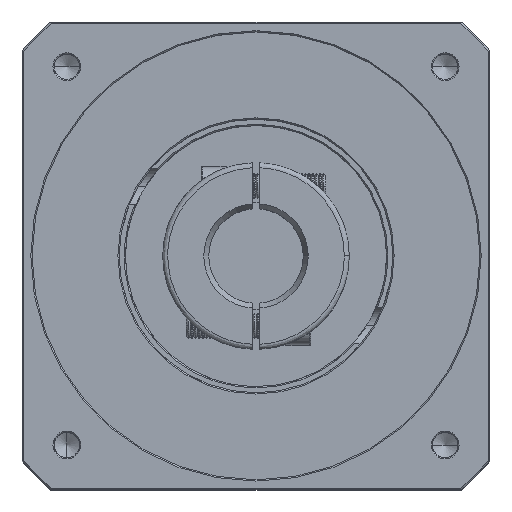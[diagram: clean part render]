
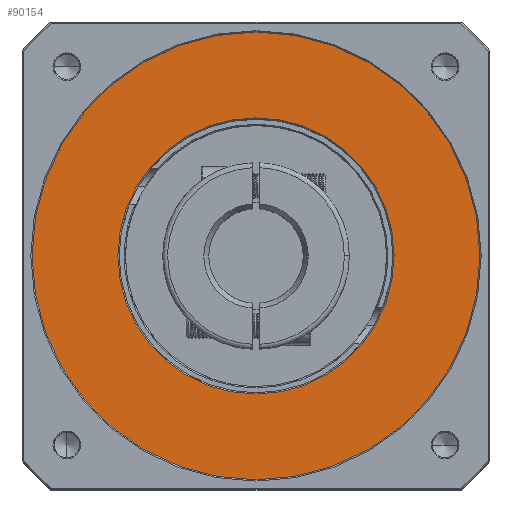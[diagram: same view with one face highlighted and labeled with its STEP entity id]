
A CAD part, top view. The second image highlights one B-rep face of the part: STEP entity #90154.
In plain terms, the highlighted planar face has unit normal (0, 0, 1).
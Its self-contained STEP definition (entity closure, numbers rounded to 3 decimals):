
#6690 = AXIS2_PLACEMENT_3D ( 'NONE', #73808, #114043, #103652 ) ;
#6724 = ORIENTED_EDGE ( 'NONE', *, *, #32026, .T. ) ;
#13202 = CARTESIAN_POINT ( 'NONE',  ( -106.794, 103.65, 45.009 ) ) ;
#13937 = VERTEX_POINT ( 'NONE', #16743 ) ;
#14305 = EDGE_CURVE ( 'NONE', #66370, #68762, #106168, .T. ) ;
#16743 = CARTESIAN_POINT ( 'NONE',  ( -16.794, 103.65, 45.009 ) ) ;
#18852 = AXIS2_PLACEMENT_3D ( 'NONE', #122069, #98552, #38377 ) ;
#21304 = ORIENTED_EDGE ( 'NONE', *, *, #118386, .T. ) ;
#24420 = AXIS2_PLACEMENT_3D ( 'NONE', #13202, #53072, #75910 ) ;
#32026 = EDGE_CURVE ( 'NONE', #13937, #55287, #40857, .T. ) ;
#32610 = EDGE_CURVE ( 'NONE', #68762, #66370, #37626, .T. ) ;
#34600 = ORIENTED_EDGE ( 'NONE', *, *, #14305, .T. ) ;
#35087 = CIRCLE ( 'NONE', #84896, 90. ) ;
#35597 = ORIENTED_EDGE ( 'NONE', *, *, #32610, .T. ) ;
#37626 = CIRCLE ( 'NONE', #128246, 55.5 ) ;
#38377 = DIRECTION ( 'NONE',  ( 1., 0., 0. ) ) ;
#40080 = EDGE_LOOP ( 'NONE', ( #6724, #21304 ) ) ;
#40857 = CIRCLE ( 'NONE', #24420, 90. ) ;
#50494 = CARTESIAN_POINT ( 'NONE',  ( -106.794, 103.65, 45.009 ) ) ;
#53072 = DIRECTION ( 'NONE',  ( 0., 0., 1. ) ) ;
#55287 = VERTEX_POINT ( 'NONE', #70514 ) ;
#57046 = CARTESIAN_POINT ( 'NONE',  ( -106.794, 103.65, 45.009 ) ) ;
#59113 = CARTESIAN_POINT ( 'NONE',  ( -162.294, 103.65, 45.009 ) ) ;
#59204 = DIRECTION ( 'NONE',  ( 0., 0., -1. ) ) ;
#63435 = PLANE ( 'NONE',  #6690 ) ;
#66370 = VERTEX_POINT ( 'NONE', #96680 ) ;
#68762 = VERTEX_POINT ( 'NONE', #59113 ) ;
#70514 = CARTESIAN_POINT ( 'NONE',  ( -196.794, 103.65, 45.009 ) ) ;
#73808 = CARTESIAN_POINT ( 'NONE',  ( -106.794, 103.65, 45.009 ) ) ;
#75191 = DIRECTION ( 'NONE',  ( 1., 0., 0. ) ) ;
#75910 = DIRECTION ( 'NONE',  ( 1., 0., 0. ) ) ;
#79915 = EDGE_LOOP ( 'NONE', ( #34600, #35597 ) ) ;
#84896 = AXIS2_PLACEMENT_3D ( 'NONE', #57046, #115876, #75191 ) ;
#90154 = ADVANCED_FACE ( 'NONE', ( #98663, #95528 ), #63435, .T. ) ;
#95528 = FACE_OUTER_BOUND ( 'NONE', #40080, .T. ) ;
#96680 = CARTESIAN_POINT ( 'NONE',  ( -51.294, 103.65, 45.009 ) ) ;
#98552 = DIRECTION ( 'NONE',  ( 0., 0., -1. ) ) ;
#98663 = FACE_BOUND ( 'NONE', #79915, .T. ) ;
#103652 = DIRECTION ( 'NONE',  ( 1., 0., 0. ) ) ;
#106168 = CIRCLE ( 'NONE', #18852, 55.5 ) ;
#109805 = DIRECTION ( 'NONE',  ( 1., 0., 0. ) ) ;
#114043 = DIRECTION ( 'NONE',  ( 0., 0., 1. ) ) ;
#115876 = DIRECTION ( 'NONE',  ( 0., 0., 1. ) ) ;
#118386 = EDGE_CURVE ( 'NONE', #55287, #13937, #35087, .T. ) ;
#122069 = CARTESIAN_POINT ( 'NONE',  ( -106.794, 103.65, 45.009 ) ) ;
#128246 = AXIS2_PLACEMENT_3D ( 'NONE', #50494, #59204, #109805 ) ;
